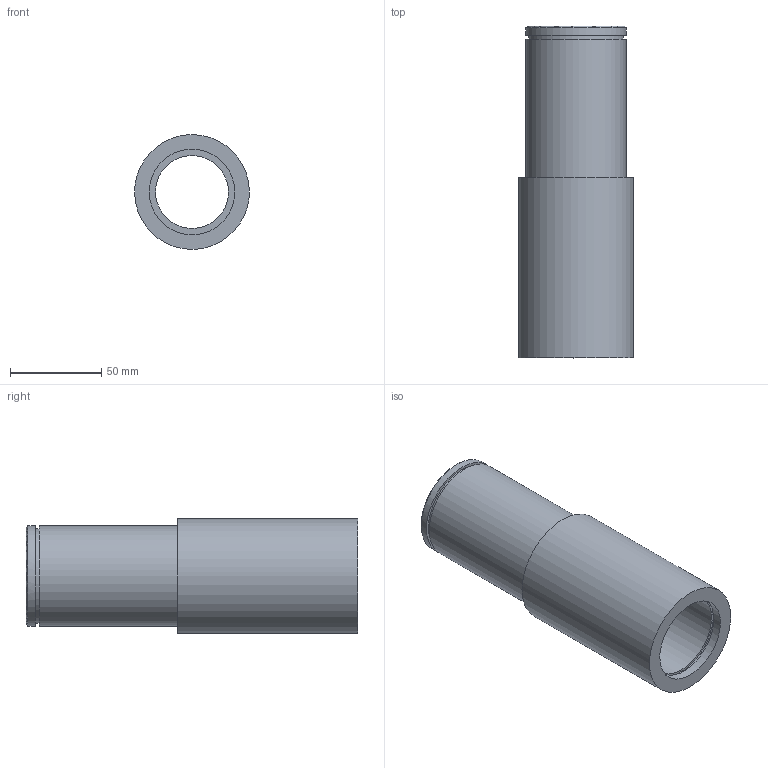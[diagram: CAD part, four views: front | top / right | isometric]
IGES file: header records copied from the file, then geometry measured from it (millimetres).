
Global section: file name: Arbre central v2 v1; native system: unknown; preprocessor: unknown; author: unknown; organization: unknown; date: 20160212.103047; units: millimetre
Bounding box: 63 x 182.15 x 62.95 mm (x, y, z)
Volume: 246223.3 mm3; surface area: 62754.3 mm2
Topology: 1 solids, 1 shells, 17 faces, 42 edges, 33 vertices
Faces by surface type: bspline 17
